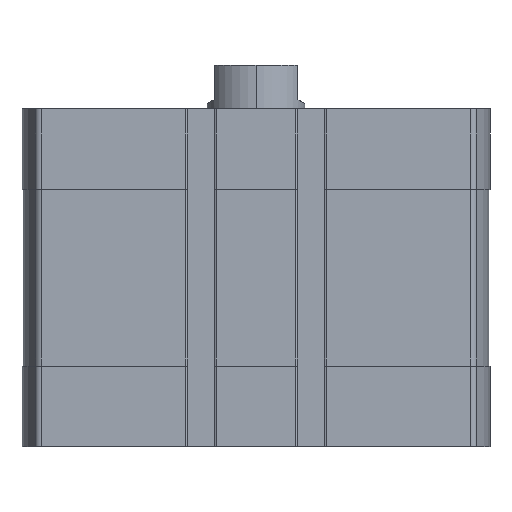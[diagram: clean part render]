
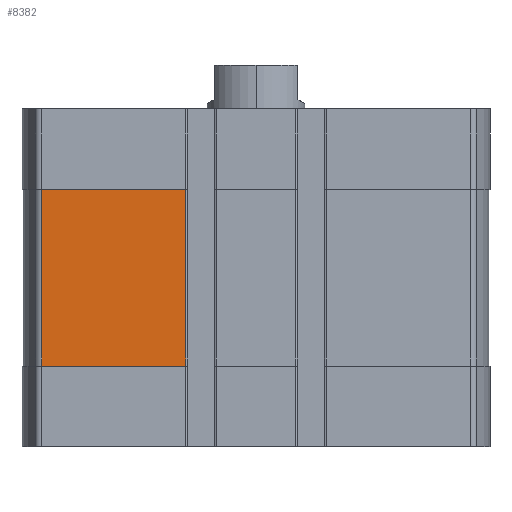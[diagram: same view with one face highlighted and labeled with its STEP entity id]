
A CAD part, left-side view. The second image highlights one B-rep face of the part: STEP entity #8382.
In plain terms, the highlighted planar face has unit normal (-1, 0, 0).
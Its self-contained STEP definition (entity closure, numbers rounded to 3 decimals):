
#1051 = VERTEX_POINT ( 'NONE', #5598 ) ;
#1830 = ORIENTED_EDGE ( 'NONE', *, *, #12465, .T. ) ;
#2350 = ORIENTED_EDGE ( 'NONE', *, *, #2866, .T. ) ;
#2363 = ORIENTED_EDGE ( 'NONE', *, *, #5896, .T. ) ;
#2634 = VECTOR ( 'NONE', #12297, 1000. ) ;
#2866 = EDGE_CURVE ( 'NONE', #11968, #8596, #7793, .T. ) ;
#2962 = AXIS2_PLACEMENT_3D ( 'NONE', #12061, #13203, #6160 ) ;
#3422 = EDGE_LOOP ( 'NONE', ( #2350, #2363, #1830, #5531 ) ) ;
#3719 = PLANE ( 'NONE',  #2962 ) ;
#3861 = CARTESIAN_POINT ( 'NONE',  ( -47.5, 43.743, -52.5 ) ) ;
#3917 = LINE ( 'NONE', #12730, #4287 ) ;
#3937 = CARTESIAN_POINT ( 'NONE',  ( -47.5, 0., -16.5 ) ) ;
#4156 = EDGE_CURVE ( 'NONE', #8370, #11968, #12394, .T. ) ;
#4157 = FACE_OUTER_BOUND ( 'NONE', #3422, .T. ) ;
#4287 = VECTOR ( 'NONE', #4408, 1000. ) ;
#4408 = DIRECTION ( 'NONE',  ( 0., 0., 1. ) ) ;
#5415 = CARTESIAN_POINT ( 'NONE',  ( -47.5, 43.743, -52.5 ) ) ;
#5522 = DIRECTION ( 'NONE',  ( 0., -1., 0. ) ) ;
#5531 = ORIENTED_EDGE ( 'NONE', *, *, #4156, .T. ) ;
#5598 = CARTESIAN_POINT ( 'NONE',  ( -47.5, 14.3, -16.5 ) ) ;
#5896 = EDGE_CURVE ( 'NONE', #8596, #1051, #3917, .T. ) ;
#6160 = DIRECTION ( 'NONE',  ( 0., 0., 1. ) ) ;
#7318 = CARTESIAN_POINT ( 'NONE',  ( -47.5, 43.743, -16.5 ) ) ;
#7551 = VECTOR ( 'NONE', #5522, 1000. ) ;
#7793 = LINE ( 'NONE', #5415, #7551 ) ;
#8370 = VERTEX_POINT ( 'NONE', #7318 ) ;
#8382 = ADVANCED_FACE ( 'NONE', ( #4157 ), #3719, .T. ) ;
#8596 = VERTEX_POINT ( 'NONE', #13484 ) ;
#9326 = CARTESIAN_POINT ( 'NONE',  ( -47.5, 43.743, -52.5 ) ) ;
#11818 = LINE ( 'NONE', #3937, #2634 ) ;
#11968 = VERTEX_POINT ( 'NONE', #3861 ) ;
#12061 = CARTESIAN_POINT ( 'NONE',  ( -47.5, 43.743, -52.5 ) ) ;
#12297 = DIRECTION ( 'NONE',  ( 0., 1., 0. ) ) ;
#12394 = LINE ( 'NONE', #9326, #13456 ) ;
#12465 = EDGE_CURVE ( 'NONE', #1051, #8370, #11818, .T. ) ;
#12730 = CARTESIAN_POINT ( 'NONE',  ( -47.5, 14.3, -52.5 ) ) ;
#13203 = DIRECTION ( 'NONE',  ( -1., 0., 0. ) ) ;
#13456 = VECTOR ( 'NONE', #15008, 1000. ) ;
#13484 = CARTESIAN_POINT ( 'NONE',  ( -47.5, 14.3, -52.5 ) ) ;
#15008 = DIRECTION ( 'NONE',  ( 0., 0., -1. ) ) ;
